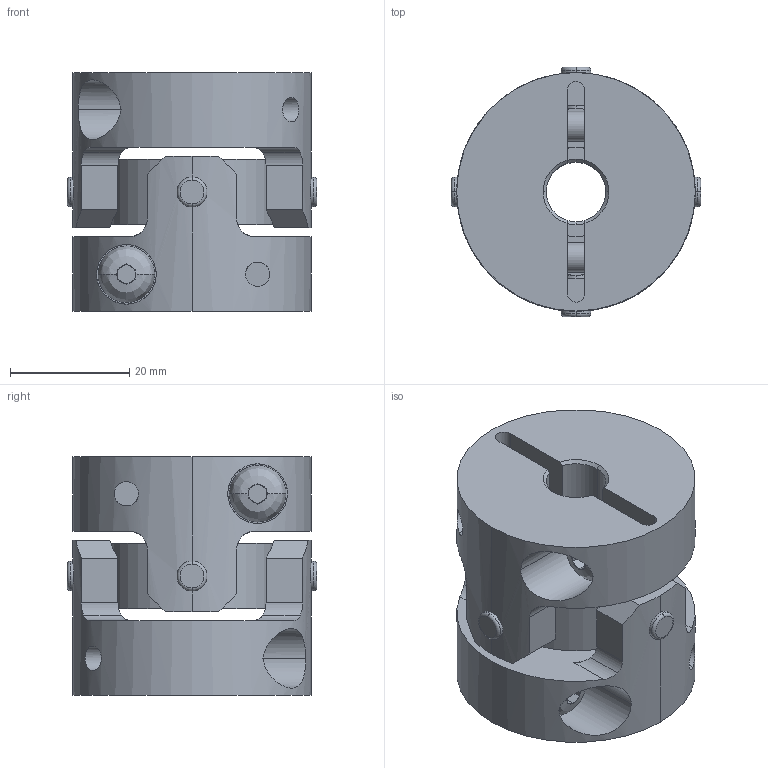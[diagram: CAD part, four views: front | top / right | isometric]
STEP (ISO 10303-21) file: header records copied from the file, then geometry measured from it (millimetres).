
FILE_DESCRIPTION((''),'2;1');
FILE_NAME('UA-40C-10×10.stp','2013-05-22T09:35:36',(''),(''),'AutoCAD STEP 2000i','AutoCAD 2000i',', , ');
FILE_SCHEMA(('CONFIG_CONTROL_DESIGN'));
Length unit declared in the file: millimetre
Products named in the file (6): UA-40C-8×8; 忣兜1; UA-4002-D08-1; BTN-M5; UA-4002-D08; UA40-SEN
Assembly tree (6 placements, depth 3):
  UA-40C-8×8
    忣兜1
    UA-4002-D08-1
      BTN-M5
    UA-4002-D08
      BTN-M5
    UA40-SEN
Bounding box: 41.81 x 41.81 x 40 mm (x, y, z)
Volume: 34661.6 mm3; surface area: 15653.2 mm2
Topology: 1 solids, 1 shells, 250 faces, 646 edges, 408 vertices
Faces by surface type: plane 122, cylinder 96, cone 16, bspline 8, torus 8
Entity records: 9627 total; most frequent: CARTESIAN_POINT 3371, ORIENTED_EDGE 1292, DIRECTION 1288, EDGE_CURVE 646, AXIS2_PLACEMENT_3D 497, VERTEX_POINT 408, VECTOR 294, LINE 294
